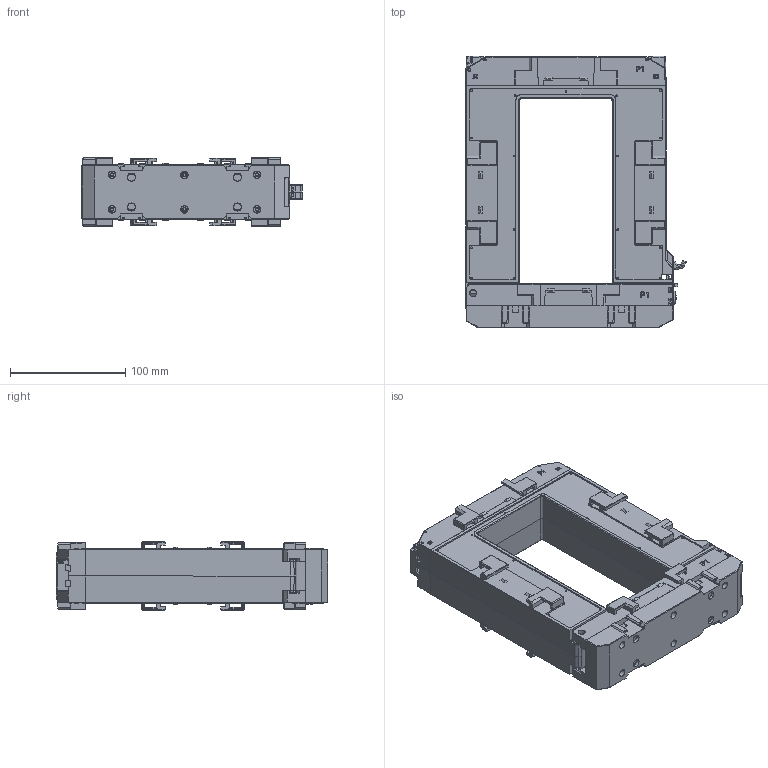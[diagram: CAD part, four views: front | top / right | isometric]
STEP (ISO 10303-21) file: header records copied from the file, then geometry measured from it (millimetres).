
FILE_DESCRIPTION (( 'STEP AP214' ), '1' );
FILE_NAME ('Push 816.STEP', '2023-03-29T15:31:10', ( '' ), ( '' ), 'SwSTEP 2.0', 'SolidWorks 2022', '' );
FILE_SCHEMA (( 'AUTOMOTIVE_DESIGN' ));
Length unit declared in the file: millimetre
Products named in the file (9): 010_TP-PUSH816_Predeterminado; 009_TP-PUSH816_Predeterminado; Push 816; 004_TP-PUSH816 v2_Predeterminado; 002_TP-PUSH816_Predeterminado; 006_TP-PUSH816_Predeterminado; TAPETA_TAPA CUERPO LARGO2__816_v3_1_mod-32-02-21_Predeterminado; 003_TP-PUSH816 v2_Predeterminado; 001_TP-PUSH816 v2_Predeterminado
Assembly tree (10 placements, depth 2):
  Push 816
    001_TP-PUSH816 v2_Predeterminado
    002_TP-PUSH816_Predeterminado
    003_TP-PUSH816 v2_Predeterminado
    004_TP-PUSH816 v2_Predeterminado
    006_TP-PUSH816_Predeterminado  x2
    009_TP-PUSH816_Predeterminado
    010_TP-PUSH816_Predeterminado
    TAPETA_TAPA CUERPO LARGO2__816_v3_1_mod-32-02-21_Predeterminado  x2
Bounding box: 191.5 x 235.67 x 59.4 mm (x, y, z)
Volume: 469360.1 mm3; surface area: 356535.5 mm2
Topology: 10 solids, 10 shells, 5024 faces, 13302 edges, 8364 vertices
Faces by surface type: plane 2744, cylinder 1066, bspline 757, cone 417, torus 40
Entity records: 219751 total; most frequent: CARTESIAN_POINT 70557, ORIENTED_EDGE 24076, DIRECTION 20404, EDGE_CURVE 12038, VERTEX_POINT 7666, VECTOR 7570, LINE 7570, AXIS2_PLACEMENT_3D 6417
